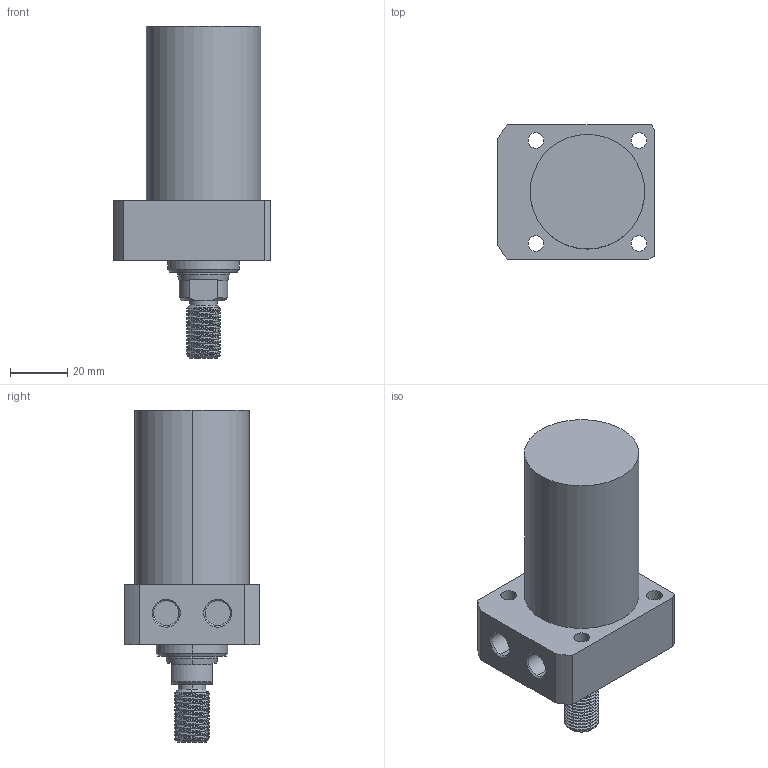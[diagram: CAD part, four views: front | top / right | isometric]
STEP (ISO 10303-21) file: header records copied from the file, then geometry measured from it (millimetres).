
FILE_DESCRIPTION (( 'STEP AP214' ), '1' );
FILE_NAME ('CLLR-040CT-050.STEP', '2020-01-08T10:56:04', ( 'Windows' ), ( 'Microsoft' ), 'SwSTEP 2.0', 'SolidWorks 2015', '' );
FILE_SCHEMA (( 'AUTOMOTIVE_DESIGN' ));
Length unit declared in the file: millimetre
Products named in the file (1): CLLR-040CT-050
Bounding box: 55 x 47 x 116 mm (x, y, z)
Volume: 132714 mm3; surface area: 20988.1 mm2
Topology: 1 solids, 1 shells, 93 faces, 237 edges, 154 vertices
Faces by surface type: cylinder 56, plane 20, cone 15, bspline 2
Entity records: 4513 total; most frequent: CARTESIAN_POINT 2300, ORIENTED_EDGE 474, DIRECTION 424, EDGE_CURVE 237, AXIS2_PLACEMENT_3D 166, VERTEX_POINT 154, EDGE_LOOP 109, FACE_OUTER_BOUND 93
